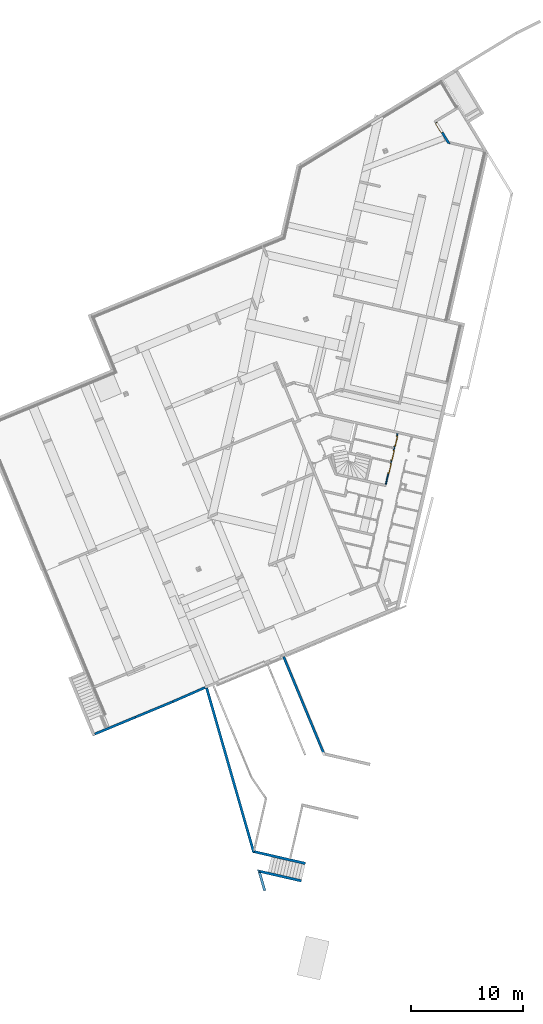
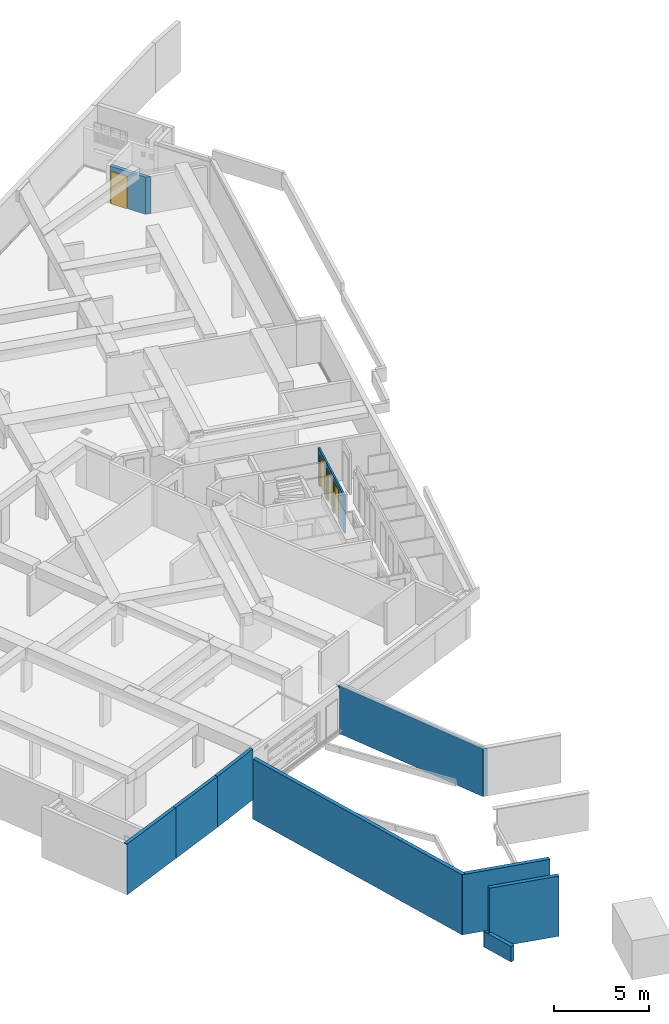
# One storey, part 6 of 20: 10 walls, 4 doors, 4 openings.
"""IFC2X3 building model written with IfcOpenShell, lengths in metres."""

from ifc_helpers import new_model, entity, si_unit, converted_unit, derived_unit, money_unit, direction, frame, origin_with_axes, place, context, subcontext, project, spatial, faceted_brep, source, transform, mapped, material, material_list, type_object, element, fill, save


model = new_model("IFC2X3")

# Units and contexts
model_context = context("Model", 3, precision=1e-05, world=origin_with_axes(), true_north=direction((0.0, 1.0)))
body_context = subcontext(model_context, "Body", "Model", "MODEL_VIEW")
ifc_project = project(units=[si_unit("LENGTHUNIT", "METRE"), si_unit("AREAUNIT", "SQUARE_METRE"), si_unit("VOLUMEUNIT", "CUBIC_METRE"), converted_unit("PLANEANGLEUNIT", "DEGREE", entity("IfcPlaneAngleMeasure", 0.0174532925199), si_unit("PLANEANGLEUNIT", "RADIAN"), dimensions=[0, 0, 0, 0, 0, 0, 0]), si_unit("SOLIDANGLEUNIT", "STERADIAN"), money_unit("EUR"), converted_unit("TIMEUNIT", "Year", entity("IfcTimeMeasure", 31556926.0), si_unit("TIMEUNIT", "SECOND"), dimensions=[0, 0, 1, 0, 0, 0, 0]), si_unit("MASSUNIT", "GRAM", prefix="KILO"), si_unit("THERMODYNAMICTEMPERATUREUNIT", "DEGREE_CELSIUS"), si_unit("LUMINOUSINTENSITYUNIT", "LUMEN"), si_unit("ENERGYUNIT", "JOULE", prefix="MEGA"), derived_unit("THERMALCONDUCTANCEUNIT", [(si_unit("POWERUNIT", "WATT"), 1), (si_unit("LENGTHUNIT", "METRE"), -1), (si_unit("THERMODYNAMICTEMPERATUREUNIT", "KELVIN"), -1)]), derived_unit("SPECIFICHEATCAPACITYUNIT", [(si_unit("ENERGYUNIT", "JOULE"), 1), (si_unit("MASSUNIT", "GRAM", prefix="KILO"), -1), (si_unit("THERMODYNAMICTEMPERATUREUNIT", "KELVIN"), -1)]), derived_unit("MASSDENSITYUNIT", [(si_unit("MASSUNIT", "GRAM", prefix="KILO"), 1), (si_unit("VOLUMEUNIT", "CUBIC_METRE"), -1)])], contexts=[model_context])

# Site, building, storey
site_placement = place(None, origin_with_axes())
site = spatial("IfcSite", under=ifc_project, at=site_placement, Name="Site", CompositionType="ELEMENT")
building_placement = place(site_placement, origin_with_axes())
building = spatial("IfcBuilding", under=site, at=building_placement, Name="Bâtiment", CompositionType="ELEMENT")
storey_placement = place(building_placement, frame((0.0, 0.0, -2.9), z_axis=(0.0, 0.0, 1.0), x_axis=(1.0, 0.0, 0.0)))
storey = spatial("IfcBuildingStorey", under=building, at=storey_placement, Name="Sous-sol", CompositionType="ELEMENT", Elevation=-2.9)

# Wall, opening, door
ifc_material_1 = material(Name="Béton")
wall_type_1 = type_object("IfcWallType", Name="Béton 200", PredefinedType="USERDEFINED")
wall_1_placement = place(storey_placement, frame((-0.39962045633, 22.1842395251, 0.0), z_axis=(0.0, 0.0, 1.0), x_axis=(0.519386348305, -0.854539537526, 0.0)))
wall_1 = element("IfcWall", 1, at=wall_1_placement, inside=storey, type_object=wall_type_1, material=ifc_material_1, Name="M_Ext-007", ObjectType="SOLIDWALL", context=body_context, shape_type="Brep", body=[
    faceted_brep([(0.241466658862, 0.2, 2.085), (0.241466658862, 0.2, 0.0), (0.2, 0.2, 0.0), (0.2, 0.2, 2.37), (2.53662109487, 0.2, 2.37), (2.53662109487, 0.2, 0.0), (1.26146665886, 0.2, 0.0), (1.26146665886, 0.2, 2.085), (0.241466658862, 0.0, 2.085), (0.241466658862, 0.0, 0.0), (0.2, 0.0, 0.0), (0.2, 0.0, 2.37), (2.34153991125, 0.0, 2.37), (1.52025867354, 0.0, 2.37), (1.521313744, 0.00572113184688, 2.37), (1.55233664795, 0.0, 2.37), (2.34153991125, 0.0, 0.0), (1.26146665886, 0.0, 0.0), (1.26146665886, 0.0, 2.085), (1.55233664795, 0.0, 2.2), (1.52025867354, 0.0, 2.2), (1.521313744, 0.00572113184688, 2.2)], [[[0, 1, 2, 3, 4, 5, 6, 7]], [[1, 0, 8, 9]], [[1, 9, 10, 2]], [[11, 3, 2, 10]], [[12, 4, 3, 11, 13, 14, 15]], [[12, 16, 5, 4]], [[17, 6, 5, 16]], [[7, 6, 17, 18]], [[0, 7, 18, 8]], [[18, 17, 16, 12, 15, 19, 20, 13, 11, 10, 9, 8]], [[14, 13, 20, 21]], [[19, 15, 14, 21]], [[21, 20, 19]]]),
])
opening_1_placement = place(wall_1_placement, frame((0.751466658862, 0.0, 0.0), z_axis=(0.0, 0.0, 1.0), x_axis=(1.0, 0.0, 0.0)))
opening_1 = element("IfcOpeningElement", 2, at=opening_1_placement, cuts=wall_1, Name="Porte 93x204 bois CF", context=body_context, shape_type="Brep", body=[
    faceted_brep([(-0.51, 0.2, 0.0), (0.51, 0.2, 0.0), (0.51, -0.2, 0.0), (-0.51, -0.2, 0.0), (-0.51, 0.2, 2.085), (0.51, 0.2, 2.085), (0.51, -0.2, 2.085), (-0.51, -0.2, 2.085)], [[[0, 1, 2, 3]], [[0, 4, 5, 1]], [[1, 5, 6, 2]], [[3, 2, 6, 7]], [[4, 0, 3, 7]], [[5, 4, 7, 6]]]),
])
door_style_1 = type_object("IfcDoorStyle", Name="Porte int générique 2019", ConstructionType="NOTDEFINED", OperationType="SINGLE_SWING_RIGHT", ParameterTakesPrecedence=False, Sizeable=False)
shared_shape_1 = source(origin_with_axes(), body_context, "Body", "Brep", [
    faceted_brep([(0.51, 0.12, 0.0), (0.48, 0.12, 0.0), (0.48, 0.12, 2.055), (-0.48, 0.12, 2.055), (-0.48, 0.12, 0.0), (-0.51, 0.12, 0.0), (-0.51, 0.12, 2.085), (0.51, 0.12, 2.085), (0.51, -0.08, 0.0), (0.48, -0.08, 0.0), (0.48, 0.075, 0.0), (0.465, 0.075, 0.0), (0.465, 0.105, 0.0), (0.48, 0.105, 0.0), (0.48, 0.105, 2.055), (-0.48, 0.105, 2.055), (-0.48, 0.105, 0.0), (-0.465, 0.105, 0.0), (-0.465, 0.075, 0.0), (-0.48, 0.075, 0.0), (-0.48, -0.08, 0.0), (-0.51, -0.08, 0.0), (-0.51, -0.08, 2.085), (0.51, -0.08, 2.085), (-0.48, -0.08, 2.055), (0.48, -0.08, 2.055), (0.48, 0.075, 2.055), (-0.48, 0.075, 2.055), (-0.465, 0.075, 2.04), (0.465, 0.075, 2.04), (0.465, 0.105, 2.04), (-0.465, 0.105, 2.04)], [[[0, 1, 2, 3, 4, 5, 6, 7]], [[0, 8, 9, 10, 11, 12, 13, 1]], [[1, 13, 14, 2]], [[2, 14, 15, 3]], [[3, 15, 16, 4]], [[5, 4, 16, 17, 18, 19, 20, 21]], [[22, 6, 5, 21]], [[23, 7, 6, 22]], [[8, 0, 7, 23]], [[9, 8, 23, 22, 21, 20, 24, 25]], [[10, 9, 25, 26]], [[11, 10, 26, 27, 19, 18, 28, 29]], [[12, 11, 29, 30]], [[13, 12, 30, 31, 17, 16, 15, 14]], [[31, 28, 18, 17]], [[27, 24, 20, 19]], [[26, 25, 24, 27]], [[30, 29, 28, 31]]]),
    faceted_brep([(0.48, 0.145, 0.0), (0.48, 0.105, 0.0), (-0.48, 0.105, 0.0), (-0.48, 0.145, 0.0), (0.48, 0.145, 2.055), (0.48, 0.105, 2.055), (-0.48, 0.105, 2.055), (-0.48, 0.145, 2.055)], [[[0, 1, 2, 3]], [[4, 5, 1, 0]], [[1, 5, 6, 2]], [[3, 2, 6, 7]], [[0, 3, 7, 4]], [[7, 6, 5, 4]]]),
])
door_1_placement = place(opening_1_placement, frame((0.465, 0.0, 0.0), z_axis=(0.0, 0.0, 1.0), x_axis=(-1.0, 0.0, 0.0)))
door_1 = element("IfcDoor", 3, at=door_1_placement, inside=storey, type_object=door_style_1, Name="Porte 93x204 bois CF", ObjectType="DOOR", OverallHeight=2.04, OverallWidth=0.93, context=body_context, shape_type="MappedRepresentation", body=[
    mapped(shared_shape_1, transform((0.465, -0.12, 0.0))),
])
fill(opening_1, door_1)

# Wall, openings, doors
ifc_material_2 = material(Name="Parpaing 10cm")
wall_type_2 = type_object("IfcWallType", Name="Parpaing 10cm 100", PredefinedType="USERDEFINED")
wall_2_placement = place(storey_placement, frame((-3.6020534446, -5.73460679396, 0.0), z_axis=(0.0, 0.0, 1.0), x_axis=(-0.224876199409, -0.97438734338, 0.0)))
wall_2 = element("IfcWall", 4, at=wall_2_placement, inside=storey, type_object=wall_type_2, material=ifc_material_2, Name="Parpaing 10x50x20", ObjectType="PARTITIONING", context=body_context, shape_type="Brep", body=[
    faceted_brep([(3.65562324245, 0.0, 0.0), (3.65562324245, 0.0, 2.085), (2.73562324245, 0.0, 2.085), (2.73562324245, 0.0, 0.0), (2.45150313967, 0.0, 0.0), (2.45150313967, 0.0, 2.085), (1.53150313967, 0.0, 2.085), (1.53150313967, 0.0, 0.0), (1.14727230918, 0.0, 0.0), (1.14727230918, 0.0, 2.085), (0.227272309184, 0.0, 2.085), (0.227272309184, 0.0, 0.0), (-7.69152741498e-10, 0.0, 0.0), (-7.69152741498e-10, 0.0, 2.37), (4.66000000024, 0.0, 2.37), (4.66000000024, 0.0, 0.0), (3.65562324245, -0.1, 0.0), (3.65562324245, -0.1, 2.085), (2.73562324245, -0.1, 2.085), (2.73562324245, -0.1, 0.0), (2.45150313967, -0.1, 0.0), (2.45150313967, -0.1, 2.085), (1.53150313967, -0.1, 2.085), (1.53150313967, -0.1, 0.0), (1.14727230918, -0.1, 0.0), (1.14727230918, -0.1, 2.085), (0.227272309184, -0.1, 2.085), (0.227272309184, -0.1, 0.0), (-8.17592216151e-10, -0.1, 0.0), (-8.17592216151e-10, -0.1, 2.37), (4.66000000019, -0.1, 2.37), (4.66000000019, -0.1, 0.0)], [[[0, 1, 2, 3, 4, 5, 6, 7, 8, 9, 10, 11, 12, 13, 14, 15]], [[1, 0, 16, 17]], [[2, 1, 17, 18]], [[3, 2, 18, 19]], [[3, 19, 20, 4]], [[4, 20, 21, 5]], [[5, 21, 22, 6]], [[6, 22, 23, 7]], [[23, 24, 8, 7]], [[24, 25, 9, 8]], [[25, 26, 10, 9]], [[26, 27, 11, 10]], [[28, 12, 11, 27]], [[13, 12, 28, 29]], [[13, 29, 30, 14]], [[31, 15, 14, 30]], [[16, 0, 15, 31]], [[17, 16, 31, 30, 29, 28, 27, 26, 25, 24, 23, 22, 21, 20, 19, 18]]]),
])
opening_2_placement = place(wall_2_placement, frame((0.687272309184, 0.0, 0.0), z_axis=(0.0, 0.0, 1.0), x_axis=(1.0, 0.0, 0.0)))
opening_2 = element("IfcOpeningElement", 5, at=opening_2_placement, cuts=wall_2, Name="Porte 83x204 bois bâti métal", context=body_context, shape_type="Brep", body=[
    faceted_brep([(-0.46, 0.1, 0.0), (0.46, 0.1, 0.0), (0.46, -0.1, 0.0), (-0.46, -0.1, 0.0), (-0.46, 0.1, 2.085), (0.46, 0.1, 2.085), (0.46, -0.1, 2.085), (-0.46, -0.1, 2.085)], [[[0, 1, 2, 3]], [[0, 4, 5, 1]], [[1, 5, 6, 2]], [[3, 2, 6, 7]], [[4, 0, 3, 7]], [[5, 4, 7, 6]]]),
])
opening_3_placement = place(wall_2_placement, frame((1.99150313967, 0.0, 0.0), z_axis=(0.0, 0.0, 1.0), x_axis=(1.0, 0.0, 0.0)))
opening_3 = element("IfcOpeningElement", 6, at=opening_3_placement, cuts=wall_2, Name="Porte 83x204 bois bâti métal", context=body_context, shape_type="Brep", body=[
    faceted_brep([(-0.46, 0.1, 0.0), (0.46, 0.1, 0.0), (0.46, -0.1, 0.0), (-0.46, -0.1, 0.0), (-0.46, 0.1, 2.085), (0.46, 0.1, 2.085), (0.46, -0.1, 2.085), (-0.46, -0.1, 2.085)], [[[0, 1, 2, 3]], [[0, 4, 5, 1]], [[1, 5, 6, 2]], [[3, 2, 6, 7]], [[4, 0, 3, 7]], [[5, 4, 7, 6]]]),
])
opening_4_placement = place(wall_2_placement, frame((3.19562324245, 0.0, 0.0), z_axis=(0.0, 0.0, 1.0), x_axis=(1.0, 0.0, 0.0)))
opening_4 = element("IfcOpeningElement", 7, at=opening_4_placement, cuts=wall_2, Name="Porte 83x204 bois bâti métal", context=body_context, shape_type="Brep", body=[
    faceted_brep([(-0.46, 0.1, 0.0), (0.46, 0.1, 0.0), (0.46, -0.1, 0.0), (-0.46, -0.1, 0.0), (-0.46, 0.1, 2.085), (0.46, 0.1, 2.085), (0.46, -0.1, 2.085), (-0.46, -0.1, 2.085)], [[[0, 1, 2, 3]], [[0, 4, 5, 1]], [[1, 5, 6, 2]], [[3, 2, 6, 7]], [[4, 0, 3, 7]], [[5, 4, 7, 6]]]),
])
door_style_2 = type_object("IfcDoorStyle", Name="Porte int générique 2019", ConstructionType="NOTDEFINED", OperationType="SINGLE_SWING_LEFT", ParameterTakesPrecedence=False, Sizeable=False)
shared_shape_2 = source(origin_with_axes(), body_context, "Body", "Brep", [
    faceted_brep([(-0.46, 0.0, 0.0), (-0.46, 0.0, 2.085), (0.46, 0.0, 2.085), (0.46, 0.0, 0.0), (0.43, 0.0, 0.0), (0.43, 0.0, 2.055), (-0.43, 0.0, 2.055), (-0.43, 0.0, 0.0), (-0.46, -0.1, 0.0), (-0.46, -0.1, 2.085), (0.46, -0.1, 2.085), (0.46, -0.1, 0.0), (0.43, -0.1, 0.0), (0.43, -0.045, 0.0), (0.415, -0.045, 0.0), (0.415, -0.015, 0.0), (0.43, -0.015, 0.0), (0.43, -0.015, 2.055), (-0.43, -0.015, 2.055), (-0.43, -0.015, 0.0), (-0.415, -0.015, 0.0), (-0.415, -0.045, 0.0), (-0.43, -0.045, 0.0), (-0.43, -0.1, 0.0), (-0.43, -0.1, 2.055), (0.43, -0.1, 2.055), (0.43, -0.045, 2.055), (-0.415, -0.045, 2.04), (0.415, -0.045, 2.04), (-0.43, -0.045, 2.055), (0.415, -0.015, 2.04), (-0.415, -0.015, 2.04)], [[[0, 1, 2, 3, 4, 5, 6, 7]], [[8, 9, 1, 0]], [[9, 10, 2, 1]], [[10, 11, 3, 2]], [[3, 11, 12, 13, 14, 15, 16, 4]], [[5, 4, 16, 17]], [[6, 5, 17, 18]], [[7, 6, 18, 19]], [[0, 7, 19, 20, 21, 22, 23, 8]], [[23, 24, 25, 12, 11, 10, 9, 8]], [[26, 13, 12, 25]], [[21, 27, 28, 14, 13, 26, 29, 22]], [[30, 15, 14, 28]], [[19, 18, 17, 16, 15, 30, 31, 20]], [[20, 31, 27, 21]], [[22, 29, 24, 23]], [[29, 26, 25, 24]], [[31, 30, 28, 27]]]),
    faceted_brep([(-0.43, 0.025, 0.0), (0.43, 0.025, 0.0), (0.43, -0.015, 0.0), (-0.43, -0.015, 0.0), (-0.43, 0.025, 2.055), (0.43, 0.025, 2.055), (0.43, -0.015, 2.055), (-0.43, -0.015, 2.055)], [[[0, 1, 2, 3]], [[0, 4, 5, 1]], [[1, 5, 6, 2]], [[3, 2, 6, 7]], [[4, 0, 3, 7]], [[5, 4, 7, 6]]]),
])
door_2_placement = place(opening_2_placement, frame((-0.415, 0.0, 0.0), z_axis=(0.0, 0.0, 1.0), x_axis=(1.0, 0.0, 0.0)))
door_2 = element("IfcDoor", 8, at=door_2_placement, inside=storey, type_object=door_style_2, Name="Porte 83x204 bois bâti métal", ObjectType="DOOR", OverallHeight=2.04, OverallWidth=0.83, context=body_context, shape_type="MappedRepresentation", body=[
    mapped(shared_shape_2, transform((0.415, 0.0, 0.0))),
])
fill(opening_2, door_2)
door_3_placement = place(opening_3_placement, frame((-0.415, 0.0, 0.0), z_axis=(0.0, 0.0, 1.0), x_axis=(1.0, 0.0, 0.0)))
door_3 = element("IfcDoor", 9, at=door_3_placement, inside=storey, type_object=door_style_2, Name="Porte 83x204 bois bâti métal", ObjectType="DOOR", OverallHeight=2.04, OverallWidth=0.83, context=body_context, shape_type="MappedRepresentation", body=[
    mapped(shared_shape_2, transform((0.415, 0.0, 0.0))),
])
fill(opening_3, door_3)
door_4_placement = place(opening_4_placement, frame((-0.415, 0.0, 0.0), z_axis=(0.0, 0.0, 1.0), x_axis=(1.0, 0.0, 0.0)))
door_4 = element("IfcDoor", 10, at=door_4_placement, inside=storey, type_object=door_style_2, Name="Porte 83x204 bois bâti métal", ObjectType="DOOR", OverallHeight=2.04, OverallWidth=0.83, context=body_context, shape_type="MappedRepresentation", body=[
    mapped(shared_shape_2, transform((0.415, 0.0, 0.0))),
])
fill(opening_4, door_4)

# Walls
ifc_material_3 = material(Name="Finition ext - Crépis")
ifc_material_list_1 = material_list([ifc_material_1, ifc_material_3])
wall_type_3 = type_object("IfcWallType", Name="1 - Mur Extérieur Béton 20+ ravalement 1 face 215", PredefinedType="USERDEFINED")
wall_3_placement = place(storey_placement, frame((-14.0007638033, -25.4497979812, -0.25), z_axis=(0.0, 0.0, 1.0), x_axis=(0.383112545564, -0.923701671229, 0.0)))
element("IfcWall", 11, at=wall_3_placement, inside=storey, type_object=wall_type_3, material=ifc_material_list_1, Name="Mur béton 20cm", ObjectType="SOLIDWALL", context=body_context, shape_type="Brep", body=[
    faceted_brep([(0.13197560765, 0.2, 2.92), (0.131975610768, 0.2, 3.05000000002), (0.151975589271, 0.2, 3.05), (0.151975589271, 0.2, 2.92), (0.131975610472, -9.55733270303e-10, 3.05000000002), (0.131975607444, -9.68572777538e-10, 2.92), (0.151975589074, -9.5378993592e-10, 3.05), (0.151975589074, -9.68572777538e-10, 2.92)], [[[0, 1, 2, 3]], [[4, 1, 0, 5]], [[1, 4, 6, 2]], [[6, 7, 3, 2]], [[5, 0, 3, 7]], [[4, 5, 7, 6]]]),
    faceted_brep([(0.249151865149, 0.2, 0.0), (0.249151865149, 0.2, 2.92), (0.199975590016, 0.2, 2.92), (0.199975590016, 0.2, 3.05), (9.83840167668, 0.2, 3.05), (9.83840167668, 0.2, 0.0), (0.250002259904, -9.68572777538e-10, 2.92), (0.2500022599, 0.0, 0.0), (0.199975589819, -9.68572777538e-10, 2.92), (0.199975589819, -9.4912522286e-10, 3.05), (9.69594356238, 0.0, 3.05), (9.6959435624, 0.0, 0.0)], [[[0, 1, 2, 3, 4, 5]], [[6, 1, 0, 7]], [[8, 2, 1, 6]], [[3, 2, 8, 9]], [[4, 3, 9, 10]], [[11, 5, 4, 10]], [[11, 7, 0, 5]], [[8, 6, 7, 11, 10, 9]]]),
    faceted_brep([(0.131975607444, -9.68572777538e-10, 2.92), (0.131975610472, -9.55736823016e-10, 3.05000000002), (0.151975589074, -9.5378993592e-10, 3.05), (0.151975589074, -9.68572777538e-10, 2.92), (0.13197561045, -0.015, 3.05000000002), (0.131975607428, -0.015, 2.92), (0.151975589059, -0.015, 3.05), (0.151975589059, -0.015, 2.92)], [[[0, 1, 2, 3]], [[4, 1, 0, 5]], [[1, 4, 6, 2]], [[7, 3, 2, 6]], [[5, 0, 3, 7]], [[4, 5, 7, 6]]]),
    faceted_brep([(0.199975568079, 0.0, 0.0), (0.199975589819, -9.49121670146e-10, 3.05), (9.71435973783, 0.0, 3.05), (9.71435973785, 0.0, 0.0), (0.199975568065, -0.015, 0.0), (0.199975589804, -0.015, 3.05), (9.70367537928, -0.015, 3.05), (9.70367537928, -0.015, 0.0)], [[[0, 1, 2, 3]], [[4, 5, 1, 0]], [[2, 1, 5, 6]], [[7, 3, 2, 6]], [[7, 4, 0, 3]], [[6, 5, 4, 7]]]),
])
wall_4_placement = place(storey_placement, frame((-30.8722554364, -32.7328806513, -0.35), z_axis=(0.0, 0.0, 1.0), x_axis=(0.923701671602, 0.383112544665, 0.0)))
element("IfcWall", 12, at=wall_4_placement, inside=storey, type_object=wall_type_3, material=ifc_material_list_1, Name="Voile béton banché 20cm", ObjectType="SOLIDWALL", context=body_context, shape_type="Brep", body=[
    faceted_brep([(4.19956043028, 0.2, 3.02), (4.19956043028, 0.18499998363, 3.02), (4.19956043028, 0.18499998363, 3.25), (4.19956043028, 0.0, 3.25), (4.19956043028, 0.0, 0.0), (4.19956043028, 0.2, 0.0), (1.69981372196, 0.2, 3.02), (1.69981353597, 0.184999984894, 3.02), (1.69981353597, 0.184999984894, 3.25), (1.69981372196, 0.2, 3.25), (0.0, 0.2, 3.25000000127), (0.0, -9.68583435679e-10, 3.25000000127), (0.0, -9.68583435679e-10, 3.22), (0.25, -9.68586988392e-10, 3.22), (0.25, 0.0, 0.0), (0.25, 0.2, 0.0), (0.25, 0.2, 3.22), (0.0, 0.2, 3.22)], [[[0, 1, 2, 3, 4, 5]], [[1, 0, 6, 7]], [[8, 2, 1, 7]], [[8, 9, 10, 11, 3, 2]], [[12, 13, 14, 4, 3, 11]], [[4, 14, 15, 5]], [[6, 0, 5, 15, 16, 17, 10, 9]], [[9, 8, 7, 6]], [[10, 17, 12, 11]], [[16, 13, 12, 17]], [[15, 14, 13, 16]]]),
    faceted_brep([(0.0, -9.68583435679e-10, 3.25000000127), (0.0, -0.015, 3.25000000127), (4.19956043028, -0.015, 3.25), (4.19956043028, 0.0, 3.25), (0.0, -0.015, 3.22), (0.0, -9.68583435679e-10, 3.22), (0.0, -0.015, 0.0), (4.19956043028, -0.015, 0.0), (4.19956043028, 0.0, 0.0), (0.0, 0.0, 0.0)], [[[0, 1, 2, 3]], [[4, 1, 0, 5]], [[1, 4, 6, 7, 2]], [[7, 8, 3, 2]], [[5, 0, 3, 8, 9]], [[4, 5, 9, 6]], [[6, 9, 8, 7]]]),
])
wall_5_placement = place(storey_placement, frame((-23.6767773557, -29.7484996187, -0.35), z_axis=(0.0, 0.0, 1.0), x_axis=(0.915728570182, 0.401797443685, 0.0)))
element("IfcWall", 13, at=wall_5_placement, inside=storey, type_object=wall_type_3, material=ifc_material_list_1, Name="Voile béton banché 20cm", ObjectType="SOLIDWALL", context=body_context, shape_type="Brep", body=[
    faceted_brep([(3.13776481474, 0.190657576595, 3.02), (3.13776481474, 0.190657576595, 3.25), (3.13776481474, 4.47037962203e-10, 3.25), (3.1377648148, 6.55651888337e-09, 3.02), (0.00187935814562, 0.185012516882, 3.25), (0.00187935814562, 0.185012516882, 3.02), (0.0, 3.72529385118e-09, 3.25), (0.0, 3.72529385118e-09, 0.0), (3.1377648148, 6.55651888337e-09, 0.0), (3.13776481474, 0.199999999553, 3.02), (0.00203160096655, 0.199999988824, 3.02), (3.13979641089, 0.199999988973, 3.02), (0.00203160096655, 0.199999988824, 0.0), (3.13979641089, 0.199999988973, 0.0)], [[[0, 1, 2, 3]], [[4, 1, 0, 5]], [[1, 4, 6, 2]], [[2, 6, 7, 8, 3]], [[9, 10, 5, 0, 3, 11]], [[5, 10, 12, 7, 6, 4]], [[8, 7, 12, 13]], [[13, 11, 3, 8]], [[10, 9, 11, 13, 12]]]),
    faceted_brep([(3.13776481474, 4.47037962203e-10, 3.25), (0.0, 3.72529385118e-09, 3.25), (-0.000152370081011, -0.015, 3.25), (3.13776481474, -0.015, 3.25), (3.1377648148, 6.55651888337e-09, 0.0), (0.0, 3.72529385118e-09, 0.0), (3.1377648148, 6.55651888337e-09, 3.02), (-0.000152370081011, -0.015, 0.0), (3.13761244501, -0.015, 0.0), (3.13761244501, -0.015, 3.02), (3.13776481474, -0.015, 3.02)], [[[0, 1, 2, 3]], [[4, 5, 1, 0, 6]], [[7, 2, 1, 5]], [[3, 2, 7, 8, 9, 10]], [[3, 10, 6, 0]], [[8, 7, 5, 4]], [[6, 9, 8, 4]], [[9, 6, 10]]]),
])
ifc_material_list_2 = material_list([ifc_material_3, ifc_material_1])
wall_6_placement = place(storey_placement, frame((-23.6767773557, -29.7484996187, -0.35), z_axis=(0.0, 0.0, 1.0), x_axis=(-0.923701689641, -0.383112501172, 0.0)))
element("IfcWall", 14, at=wall_6_placement, inside=storey, type_object=wall_type_3, material=ifc_material_list_2, Name="Voile béton banché 20cm", ObjectType="SOLIDWALL", context=body_context, shape_type="Brep", body=[
    faceted_brep([(-0.000152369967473, 0.0149999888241, 0.0), (-0.000152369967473, 0.0149999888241, 3.25), (3.59026851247, 0.015, 3.25), (3.59026851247, 0.015, 0.0), (1.51366918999e-10, -1.49011754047e-08, 3.25), (1.51366918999e-10, -1.49011754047e-08, 0.0), (3.59026851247, 0.0, 3.25), (3.59026851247, 0.0, 0.0)], [[[0, 1, 2, 3]], [[4, 1, 0, 5]], [[1, 4, 6, 2]], [[2, 6, 7, 3]], [[5, 0, 3, 7]], [[4, 5, 7, 6]]]),
    faceted_brep([(0.00203160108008, -0.2, 3.02), (0.00187935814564, -0.185012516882, 3.02), (0.00187935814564, -0.185012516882, 3.25), (1.51366918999e-10, -1.49011754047e-08, 3.25), (1.51366918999e-10, -1.49011754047e-08, 0.0), (0.00203160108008, -0.2, 0.0), (3.59026851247, -0.2, 3.02), (3.59026851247, -0.18499998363, 3.02), (0.00243842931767, -0.185000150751, 3.02), (0.00243842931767, -0.185000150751, 3.25), (3.59026851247, -0.18499998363, 3.25), (3.59026851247, 0.0, 3.25), (3.59026851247, 0.0, 0.0), (3.59026851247, -0.2, 0.0)], [[[0, 1, 2, 3, 4, 5]], [[1, 0, 6, 7, 8]], [[9, 2, 1, 8]], [[9, 10, 11, 3, 2]], [[12, 4, 3, 11]], [[13, 5, 4, 12]], [[6, 0, 5, 13]], [[7, 6, 13, 12, 11, 10]], [[10, 9, 8, 7]]]),
])
ifc_material_list_3 = material_list([ifc_material_3, ifc_material_1, ifc_material_3])
wall_type_4 = type_object("IfcWallType", Name="1 - Mur BETON 20+ ravalement 2 faces 230", PredefinedType="STANDARD")
wall_7_placement = place(storey_placement, frame((-20.5990303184, -28.4029746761, -1.6), z_axis=(0.0, 0.0, 1.0), x_axis=(0.275500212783, -0.961301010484, 0.0)))
element("IfcWall", 15, at=wall_7_placement, inside=storey, type_object=wall_type_4, material=ifc_material_list_3, Name="Mur béton préfabriqué", ObjectType="STANDARD", context=body_context, shape_type="Brep", body=[
    faceted_brep([(0.0, 0.0149999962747, 0.0), (0.0, 0.0149999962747, 1.25), (0.0133798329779, 0.0149999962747, 1.25), (0.0133798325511, 0.015, 3.85), (15.1479064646, 0.015, 3.85), (15.1479064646, 0.0149999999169, 0.0), (0.0, 0.0, 0.0), (-6.29178487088e-09, -7.20728365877e-10, 1.25), (0.0150980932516, 0.0, 1.25), (0.0150980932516, 0.0, 3.85), (15.1396167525, 0.0, 3.85), (15.1396167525, 0.0, 0.0)], [[[0, 1, 2, 3, 4, 5]], [[6, 7, 1, 0]], [[8, 2, 1, 7]], [[8, 9, 3, 2]], [[4, 3, 9, 10]], [[11, 5, 4, 10]], [[5, 11, 6, 0]], [[9, 8, 7, 6, 11, 10]]]),
    faceted_brep([(0.0, 0.0, 0.0), (-6.29178487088e-09, -7.20728365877e-10, 1.25), (-6.40438457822e-09, 0.0, 3.85), (15.3681266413, 0.0, 3.85), (15.3681266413, 0.0, 0.0), (0.0, -0.2, 0.0), (0.0, -0.2, 1.25), (0.0229101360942, -0.2, 1.25), (0.0229101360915, -0.2, 3.85), (15.2575971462, -0.2, 3.85), (15.2575971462, -0.2, 0.0)], [[[0, 1, 2, 3, 4]], [[5, 6, 1, 0]], [[7, 8, 2, 1]], [[3, 2, 8, 9]], [[10, 4, 3, 9]], [[4, 10, 5, 0]], [[8, 7, 6, 5, 10, 9]], [[7, 1, 6]]]),
    faceted_brep([(0.0, -0.2, 1.25), (0.0380082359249, -0.2, 1.25), (0.0380082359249, -0.2, 3.85), (15.2747353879, -0.2, 3.85), (15.2747353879, -0.2, 0.0), (0.0, -0.2, 0.0), (0.0, -0.215, 1.25), (0.0397264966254, -0.215, 1.25), (0.0397264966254, -0.215, 3.85), (15.2664456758, -0.215, 3.85), (15.2664456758, -0.215, 0.0), (0.0, -0.215, 0.0)], [[[0, 1, 2, 3, 4, 5]], [[6, 7, 1, 0]], [[7, 8, 2, 1]], [[3, 2, 8, 9]], [[10, 4, 3, 9]], [[4, 10, 11, 5]], [[11, 6, 0, 5]], [[8, 7, 6, 11, 10, 9]]]),
])
wall_8_placement = place(storey_placement, frame((-11.8982622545, -44.20231124, -1.6), z_axis=(0.0, 0.0, 1.0), x_axis=(-0.974623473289, 0.22385058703, 0.0)))
element("IfcWall", 16, at=wall_8_placement, inside=storey, type_object=wall_type_4, material=ifc_material_list_3, Name="Mur béton préfabriqué", ObjectType="STANDARD", context=body_context, shape_type="Brep", body=[
    faceted_brep([(4.80337051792, 0.015, 3.85), (0.0, 0.015, 3.85), (0.0, 0.0, 3.85), (4.81166023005, 0.0, 3.85), (4.80337051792, 0.015, 0.0), (0.0, 0.015, 0.0), (0.0, 0.0, 0.0), (4.81166023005, 0.0, 0.0)], [[[0, 1, 2, 3]], [[4, 5, 1, 0]], [[2, 1, 5, 6]], [[3, 2, 6, 7]], [[3, 7, 4, 0]], [[7, 6, 5, 4]]]),
    faceted_brep([(4.58315034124, 0.0, 3.85), (0.0, 0.0, 3.85), (0.0, -0.2, 3.85), (4.69367983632, -0.2, 3.85), (4.58315034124, 0.0, 0.0), (0.0, 0.0, 0.0), (0.0, -0.2, 0.0), (4.69367983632, -0.2, 0.0)], [[[0, 1, 2, 3]], [[4, 5, 1, 0]], [[2, 1, 5, 6]], [[3, 2, 6, 7]], [[3, 7, 4, 0]], [[7, 6, 5, 4]]]),
    faceted_brep([(4.67654159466, -0.2, 3.85), (4.67654159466, -0.2, 0.0), (0.0, -0.2, 0.0), (0.0, -0.2, 3.85), (1.49691532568, -0.2, 2.6), (1.49691532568, -0.2, 3.0), (1.34691532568, -0.2, 3.0), (1.34691532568, -0.2, 2.6), (4.68483130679, -0.215, 3.85), (4.68483130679, -0.215, 0.0), (0.0, -0.215, 0.0), (0.0, -0.215, 3.85), (1.49691532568, -0.215, 2.6), (1.49691532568, -0.215, 3.0), (1.34691532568, -0.215, 3.0), (1.34691532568, -0.215, 2.6)], [[[0, 1, 2, 3], [4, 5, 6, 7]], [[0, 8, 9, 1]], [[1, 9, 10, 2]], [[10, 11, 3, 2]], [[8, 0, 3, 11]], [[12, 13, 5, 4]], [[13, 14, 6, 5]], [[14, 15, 7, 6]], [[15, 12, 4, 7]], [[9, 8, 11, 10], [12, 15, 14, 13]]]),
])
wall_9_placement = place(storey_placement, frame((-15.9244264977, -44.7140378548, -1.6), z_axis=(0.0, 0.0, 1.0), x_axis=(0.275500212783, -0.961301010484, 0.0)))
element("IfcWall", 17, at=wall_9_placement, inside=storey, type_object=wall_type_4, material=ifc_material_list_3, Name="Mur béton préfabriqué", ObjectType="STANDARD", context=body_context, shape_type="Brep", body=[
    faceted_brep([(1.87146230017, 0.0, 1.0), (1.87146230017, 0.015, 1.0), (0.253937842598, 0.015, 1.0), (0.245648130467, 0.0, 1.0), (1.87146230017, 0.0, 0.0), (1.87146230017, 0.015, 0.0), (0.253937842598, 0.015, 0.0), (0.245648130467, 0.0, 0.0)], [[[0, 1, 2, 3]], [[0, 4, 5, 1]], [[1, 5, 6, 2]], [[3, 2, 6, 7]], [[4, 0, 3, 7]], [[5, 4, 7, 6]]]),
    faceted_brep([(1.87146230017, -0.2, 1.0), (1.87146230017, 0.0, 1.0), (0.228509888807, 0.0, 1.0), (0.117980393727, -0.2, 1.0), (1.87146230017, -0.2, 0.0), (1.87146230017, 0.0, 0.0), (0.228509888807, 0.0, 0.0), (0.117980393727, -0.2, 0.0)], [[[0, 1, 2, 3]], [[0, 4, 5, 1]], [[1, 5, 6, 2]], [[3, 2, 6, 7]], [[4, 0, 3, 7]], [[5, 4, 7, 6]]]),
    faceted_brep([(1.87146230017, -0.215, 1.0), (1.87146230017, -0.2, 1.0), (-0.110529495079, -0.2, 1.0), (-0.11881920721, -0.215, 1.0), (1.87146230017, -0.215, 0.0), (1.87146230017, -0.2, 0.0), (-0.110529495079, -0.2, 0.0), (-0.11881920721, -0.215, 0.0)], [[[0, 1, 2, 3]], [[0, 4, 5, 1]], [[1, 5, 6, 2]], [[3, 2, 6, 7]], [[4, 0, 3, 7]], [[5, 4, 7, 6]]]),
])
wall_10_placement = place(storey_placement, frame((-12.2116530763, -45.5667841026, -1.6), z_axis=(0.0, 0.0, 1.0), x_axis=(-0.974623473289, 0.22385058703, 0.0)))
element("IfcWall", 18, at=wall_10_placement, inside=storey, type_object=wall_type_4, material=ifc_material_list_3, Name="Mur béton préfabriqué", ObjectType="STANDARD", context=body_context, shape_type="Brep", body=[
    faceted_brep([(3.690624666, 0.21500000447, 1.0), (3.69062466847, 0.215, 0.0), (0.0, 0.215, 0.0), (0.0, 0.215, 3.85), (3.80944387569, 0.21500000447, 3.85), (3.80944387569, 0.21500000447, 1.0), (3.69891438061, 0.2, 1.0), (3.69891438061, 0.2, 0.0), (0.0, 0.2, 0.0), (0.0, 0.2, 3.85), (3.80944387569, 0.2, 3.85), (3.80944387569, 0.2, 1.0)], [[[0, 1, 2, 3, 4, 5]], [[1, 0, 6, 7]], [[1, 7, 8, 2]], [[9, 3, 2, 8]], [[9, 10, 4, 3]], [[11, 5, 4, 10]], [[0, 5, 11, 6]], [[6, 11, 10, 9, 8, 7]]]),
    faceted_brep([(4.03795376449, 0.0, 1.0), (3.92742426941, 0.2, 1.0), (3.80944387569, 0.2, 1.0), (3.80944387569, 0.0, 1.0), (3.92742426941, 0.2, 0.0), (4.03795376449, 0.0, 0.0), (0.0, 0.2, 0.0), (0.0, 0.2, 3.85), (3.80944387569, 0.2, 3.85), (3.80944387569, 0.0, 3.85), (0.0, 0.0, 3.85), (0.0, 0.0, 0.0)], [[[0, 1, 2, 3]], [[4, 1, 0, 5]], [[1, 4, 6, 7, 8, 2]], [[2, 8, 9, 3]], [[5, 0, 3, 9, 10, 11]], [[4, 5, 11, 6]], [[10, 7, 6, 11]], [[10, 9, 8, 7]]]),
    faceted_brep([(4.06338171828, -0.015, 1.0), (4.05509200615, 0.0, 1.0), (3.80944387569, 0.0, 1.0), (3.80944387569, -0.015, 1.0), (4.05509200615, 0.0, 0.0), (4.06338171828, -0.015, 0.0), (0.0, 0.0, 0.0), (0.0, 0.0, 3.85), (3.80944387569, 0.0, 3.85), (3.80944387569, -0.015, 3.85), (0.0, -0.015, 3.85), (0.0, -0.015, 0.0)], [[[0, 1, 2, 3]], [[4, 1, 0, 5]], [[1, 4, 6, 7, 8, 2]], [[8, 9, 3, 2]], [[5, 0, 3, 9, 10, 11]], [[4, 5, 11, 6]], [[7, 6, 11, 10]], [[9, 8, 7, 10]]]),
])

save(model, "model.ifc")
